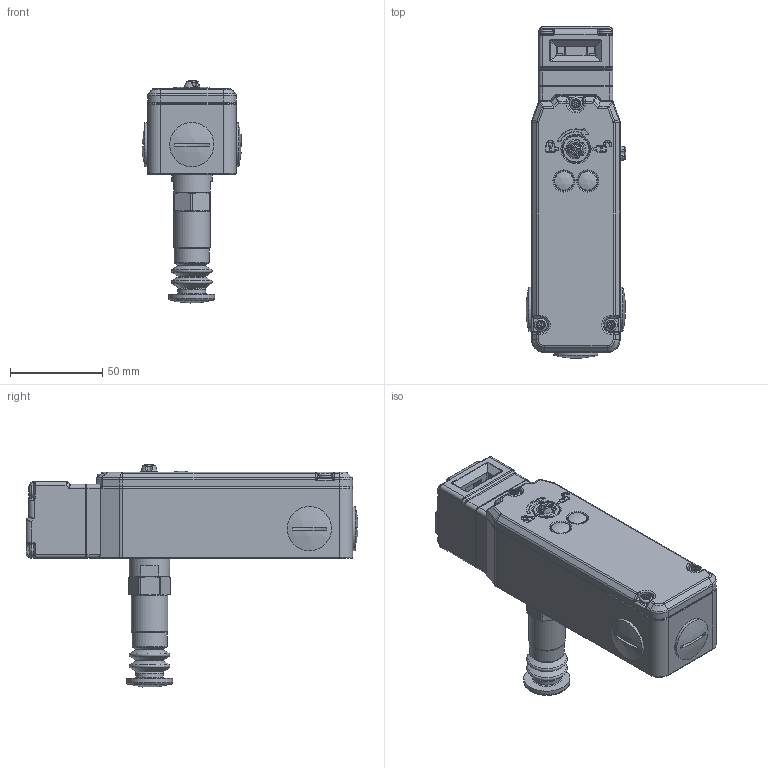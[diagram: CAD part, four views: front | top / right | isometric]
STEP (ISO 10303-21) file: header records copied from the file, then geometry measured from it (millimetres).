
FILE_DESCRIPTION (( 'STEP AP203' ), '1' );
FILE_NAME ('KL3SS-RR (for dimension).STEP', '2018-07-24T10:15:55', ( '' ), ( '' ), 'SwSTEP 2.0', 'SolidWorks 2018', '' );
FILE_SCHEMA (( 'CONFIG_CONTROL_DESIGN' ));
Length unit declared in the file: millimetre
Products named in the file (1): KL3SS-RR (for dimension)
Bounding box: 53.99 x 179.89 x 120.3 mm (x, y, z)
Surface area: 51884.7 mm2 (no closed solid volume)
Topology: 0 solids, 38 shells, 1128 faces, 3314 edges, 2079 vertices
Faces by surface type: cylinder 468, plane 252, torus 189, bspline 132, cone 75, sphere 12
Full cylindrical faces by diameter (mm): 1.3 x7, 2.2 x2, 3.5 x4, 4.2 x2, 5 x2, 5.6 x4, 7 x7, 10.6 x1, 11 x2, 14.5 x1, 15 x3, 19 x1, 19.8 x1, 22 x1, 24 x3, 25 x1
Entity records: 40006 total; most frequent: CARTESIAN_POINT 12004, DIRECTION 6093, ORIENTED_EDGE 5177, EDGE_CURVE 3152, AXIS2_PLACEMENT_3D 2423, VERTEX_POINT 2051, CIRCLE 1426, EDGE_LOOP 1286
